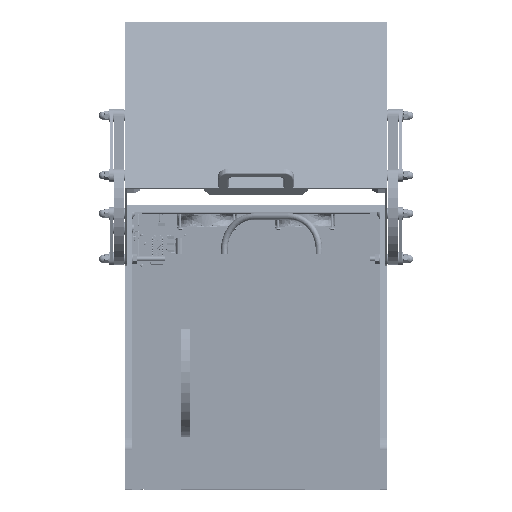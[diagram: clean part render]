
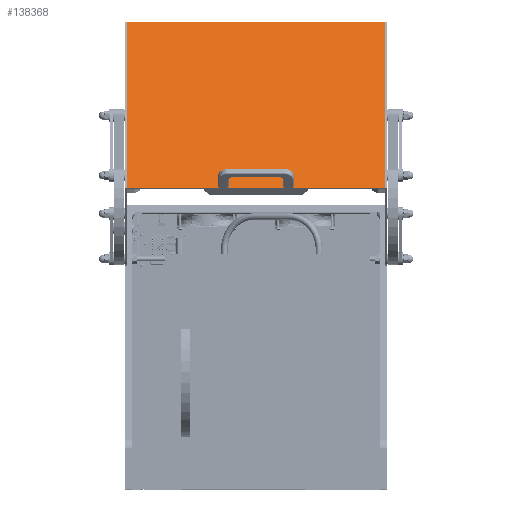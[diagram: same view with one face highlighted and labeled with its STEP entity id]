
A CAD part, top view. The second image highlights one B-rep face of the part: STEP entity #138368.
In plain terms, the highlighted planar face has unit normal (0, 0.734, 0.679) as drawn and (0, 0, 1) by its records, which use the part's own axes.
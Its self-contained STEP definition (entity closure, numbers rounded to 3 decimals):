
#174 = DIRECTION ( 'NONE',  ( 0., 0., 1. ) ) ;
#4641 = EDGE_CURVE ( 'NONE', #106300, #213696, #184017, .T. ) ;
#6971 = CARTESIAN_POINT ( 'NONE',  ( 247., 6.5, 3. ) ) ;
#8582 = VERTEX_POINT ( 'NONE', #10142 ) ;
#10142 = CARTESIAN_POINT ( 'NONE',  ( 0., 375., 3. ) ) ;
#14259 = FACE_BOUND ( 'NONE', #181111, .T. ) ;
#16939 = VECTOR ( 'NONE', #60618, 1000. ) ;
#21240 = DIRECTION ( 'NONE',  ( -1., 0., 0. ) ) ;
#26830 = DIRECTION ( 'NONE',  ( 0., 0., 1. ) ) ;
#27987 = LINE ( 'NONE', #156562, #16939 ) ;
#30015 = AXIS2_PLACEMENT_3D ( 'NONE', #164962, #119196, #21240 ) ;
#30867 = DIRECTION ( 'NONE',  ( 1., 0., 0. ) ) ;
#37248 = VECTOR ( 'NONE', #201695, 1000. ) ;
#38669 = CARTESIAN_POINT ( 'NONE',  ( 250.25, 6.5, 3. ) ) ;
#44118 = FACE_OUTER_BOUND ( 'NONE', #228664, .T. ) ;
#44750 = CARTESIAN_POINT ( 'NONE',  ( 0., 0., 3. ) ) ;
#60618 = DIRECTION ( 'NONE',  ( -1., 0., 0. ) ) ;
#61406 = DIRECTION ( 'NONE',  ( 1., 0., 0. ) ) ;
#62657 = ORIENTED_EDGE ( 'NONE', *, *, #90900, .T. ) ;
#68631 = EDGE_CURVE ( 'NONE', #8582, #265403, #290568, .T. ) ;
#83372 = LINE ( 'NONE', #137465, #187732 ) ;
#84043 = ORIENTED_EDGE ( 'NONE', *, *, #148591, .T. ) ;
#90697 = CARTESIAN_POINT ( 'NONE',  ( 147., 6.5, 3. ) ) ;
#90900 = EDGE_CURVE ( 'NONE', #186062, #8582, #27987, .T. ) ;
#96126 = VERTEX_POINT ( 'NONE', #213980 ) ;
#104182 = CIRCLE ( 'NONE', #229811, 3.25 ) ;
#106300 = VERTEX_POINT ( 'NONE', #121335 ) ;
#106850 = CARTESIAN_POINT ( 'NONE',  ( 0., 0., 3. ) ) ;
#108438 = DIRECTION ( 'NONE',  ( 0., 0., 1. ) ) ;
#109493 = CARTESIAN_POINT ( 'NONE',  ( 147., 6.5, 3. ) ) ;
#113162 = VERTEX_POINT ( 'NONE', #38669 ) ;
#115714 = ORIENTED_EDGE ( 'NONE', *, *, #182678, .F. ) ;
#119196 = DIRECTION ( 'NONE',  ( 0., 0., -1. ) ) ;
#121335 = CARTESIAN_POINT ( 'NONE',  ( 143.75, 6.5, 3. ) ) ;
#125655 = CARTESIAN_POINT ( 'NONE',  ( 394., 0., 3. ) ) ;
#135654 = DIRECTION ( 'NONE',  ( 0., 0., 1. ) ) ;
#136183 = ORIENTED_EDGE ( 'NONE', *, *, #258524, .T. ) ;
#137465 = CARTESIAN_POINT ( 'NONE',  ( 0., 0., 3. ) ) ;
#138368 = ADVANCED_FACE ( 'NONE', ( #293513, #14259, #44118 ), #259667, .F. ) ;
#140604 = EDGE_LOOP ( 'NONE', ( #238240, #115714 ) ) ;
#148591 = EDGE_CURVE ( 'NONE', #96126, #186062, #194949, .T. ) ;
#156562 = CARTESIAN_POINT ( 'NONE',  ( 0., 375., 3. ) ) ;
#161374 = DIRECTION ( 'NONE',  ( 1., 0., 0. ) ) ;
#164962 = CARTESIAN_POINT ( 'NONE',  ( 0., 0., 3. ) ) ;
#168899 = CARTESIAN_POINT ( 'NONE',  ( 247., 6.5, 3. ) ) ;
#170726 = ORIENTED_EDGE ( 'NONE', *, *, #68631, .T. ) ;
#172223 = AXIS2_PLACEMENT_3D ( 'NONE', #90697, #135654, #254210 ) ;
#177904 = ORIENTED_EDGE ( 'NONE', *, *, #298041, .F. ) ;
#181111 = EDGE_LOOP ( 'NONE', ( #177904, #229472 ) ) ;
#182678 = EDGE_CURVE ( 'NONE', #232966, #113162, #104182, .T. ) ;
#184017 = CIRCLE ( 'NONE', #219697, 3.25 ) ;
#186062 = VERTEX_POINT ( 'NONE', #222014 ) ;
#187732 = VECTOR ( 'NONE', #161374, 1000. ) ;
#194949 = LINE ( 'NONE', #125655, #232241 ) ;
#201695 = DIRECTION ( 'NONE',  ( 0., -1., 0. ) ) ;
#213696 = VERTEX_POINT ( 'NONE', #267956 ) ;
#213980 = CARTESIAN_POINT ( 'NONE',  ( 394., 0., 3. ) ) ;
#216216 = CARTESIAN_POINT ( 'NONE',  ( 243.75, 6.5, 3. ) ) ;
#218622 = EDGE_CURVE ( 'NONE', #113162, #232966, #304571, .T. ) ;
#219697 = AXIS2_PLACEMENT_3D ( 'NONE', #109493, #108438, #61406 ) ;
#222014 = CARTESIAN_POINT ( 'NONE',  ( 394., 375., 3. ) ) ;
#228664 = EDGE_LOOP ( 'NONE', ( #170726, #136183, #84043, #62657 ) ) ;
#229472 = ORIENTED_EDGE ( 'NONE', *, *, #4641, .F. ) ;
#229811 = AXIS2_PLACEMENT_3D ( 'NONE', #168899, #174, #307182 ) ;
#232241 = VECTOR ( 'NONE', #267147, 1000. ) ;
#232966 = VERTEX_POINT ( 'NONE', #216216 ) ;
#238240 = ORIENTED_EDGE ( 'NONE', *, *, #218622, .F. ) ;
#244542 = CIRCLE ( 'NONE', #172223, 3.25 ) ;
#253250 = AXIS2_PLACEMENT_3D ( 'NONE', #6971, #26830, #30867 ) ;
#254210 = DIRECTION ( 'NONE',  ( 1., 0., 0. ) ) ;
#258524 = EDGE_CURVE ( 'NONE', #265403, #96126, #83372, .T. ) ;
#259667 = PLANE ( 'NONE',  #30015 ) ;
#265403 = VERTEX_POINT ( 'NONE', #44750 ) ;
#267147 = DIRECTION ( 'NONE',  ( 0., 1., 0. ) ) ;
#267956 = CARTESIAN_POINT ( 'NONE',  ( 150.25, 6.5, 3. ) ) ;
#290568 = LINE ( 'NONE', #106850, #37248 ) ;
#293513 = FACE_BOUND ( 'NONE', #140604, .T. ) ;
#298041 = EDGE_CURVE ( 'NONE', #213696, #106300, #244542, .T. ) ;
#304571 = CIRCLE ( 'NONE', #253250, 3.25 ) ;
#307182 = DIRECTION ( 'NONE',  ( 1., 0., 0. ) ) ;
